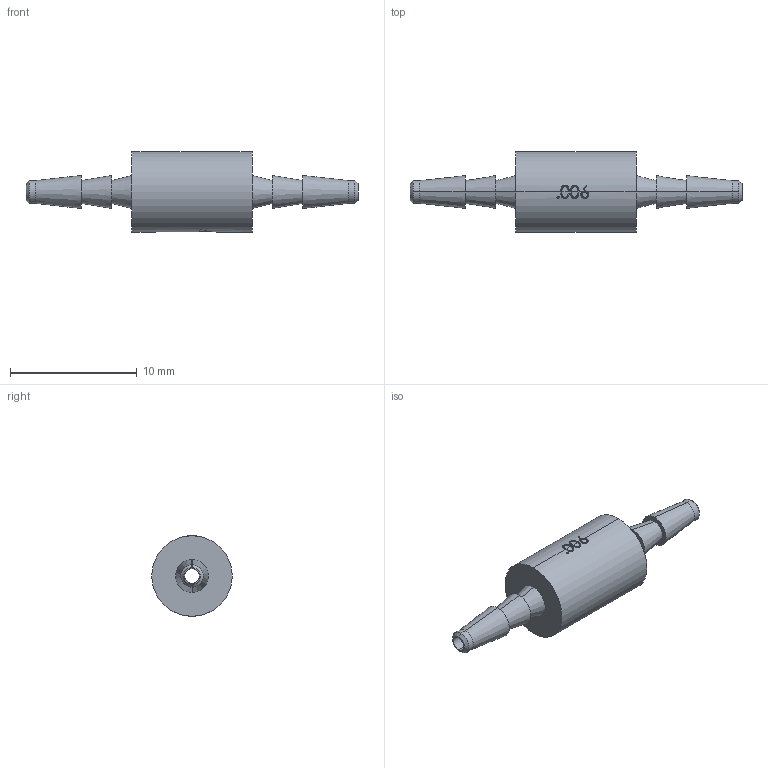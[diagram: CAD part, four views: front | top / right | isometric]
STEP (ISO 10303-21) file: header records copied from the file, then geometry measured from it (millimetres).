
FILE_DESCRIPTION(/* description */ ('SolidWorks IGES file using analytic representation for surfaces '),/* implementation_level */ '2;1');
FILE_NAME(/* name */ 'K:\Normteile INVENTOR\Air-Logic\Orifice restrictors\F-2815-051-B80.IGS.ipt.stp',/* time_stamp */ '2020-05-27T10:45:52+02:00',/* author */ ('cad'),/* organization */ (''),/* preprocessor_version */ 'ST-DEVELOPER v18',/* originating_system */ 'Autodesk Inventor 2020',/* authorisation */ '');
FILE_SCHEMA (('AUTOMOTIVE_DESIGN { 1 0 10303 214 3 1 1 }'));
Length unit declared in the file: millimetre
Products named in the file (1): F-2815-051-B80.IGS
Bounding box: 26.21 x 6.35 x 6.35 mm (x, y, z)
Surface area: 467.1 mm2 (no closed solid volume)
Topology: 0 solids, 86 shells, 86 faces, 421 edges, 421 vertices
Faces by surface type: bspline 36, cylinder 21, cone 16, plane 13
Entity records: 8669 total; most frequent: CARTESIAN_POINT 5523, DIRECTION 456, VERTEX_POINT 421, EDGE_CURVE 421, ORIENTED_EDGE 421, LINE 192, VECTOR 192, B_SPLINE_CURVE_WITH_KNOTS 148
